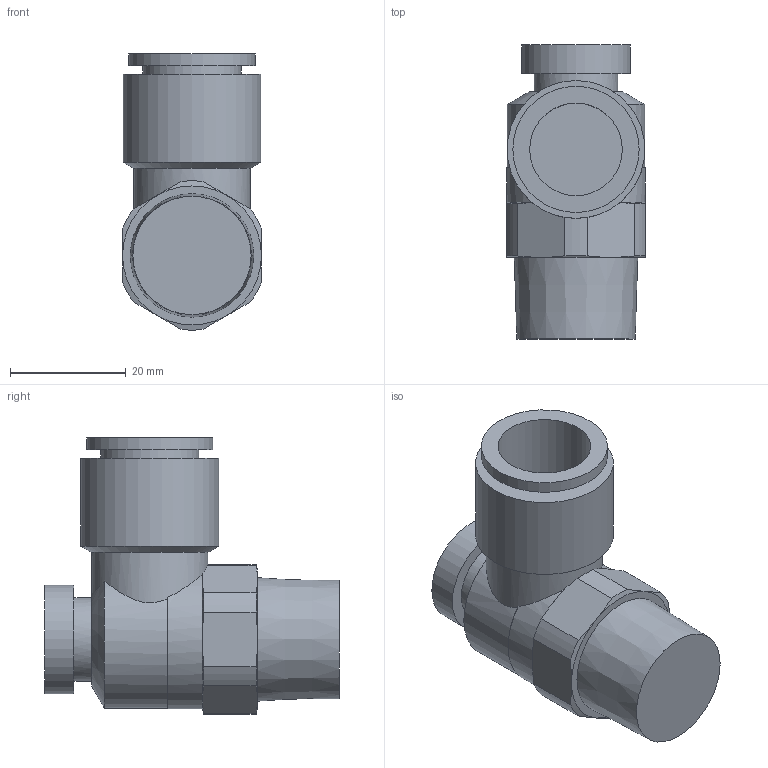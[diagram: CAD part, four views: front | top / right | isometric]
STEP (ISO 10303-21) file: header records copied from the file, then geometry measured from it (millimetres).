
FILE_DESCRIPTION(/* description */ ('STEP AP214'),/* implementation_level */ '2;1');
FILE_NAME(/* name */ 'AS4201F-04-16SA',/* time_stamp */ '2024-10-24T14:12:45+02:00',/* author */ ('License CC BY-ND 4.0'),/* organization */ ('CADENAS'),/* preprocessor_version */ 'ST-DEVELOPER v19.3',/* originating_system */ 'PARTsolutions',/* authorisation */ ' ');
FILE_SCHEMA (('AUTOMOTIVE_DESIGN {1 0 10303 214 3 1 1}'));
Length unit declared in the file: millimetre
Products named in the file (1): AS4201F-04-16SA
Bounding box: 24 x 50.8 x 47.68 mm (x, y, z)
Volume: 25106.5 mm3; surface area: 7858.3 mm2
Topology: 1 solids, 1 shells, 47 faces, 106 edges, 66 vertices
Faces by surface type: cone 16, plane 16, cylinder 15
Full cylindrical faces by diameter (mm): 14.45 x1, 16 x1, 16.94 x1, 18.8 x1, 20.1 x1, 21.8 x1, 23.8 x1
Entity records: 1328 total; most frequent: CARTESIAN_POINT 323, DIRECTION 202, ORIENTED_EDGE 190, EDGE_CURVE 95, AXIS2_PLACEMENT_3D 93, VERTEX_POINT 64, EDGE_LOOP 61, FACE_BOUND 61
